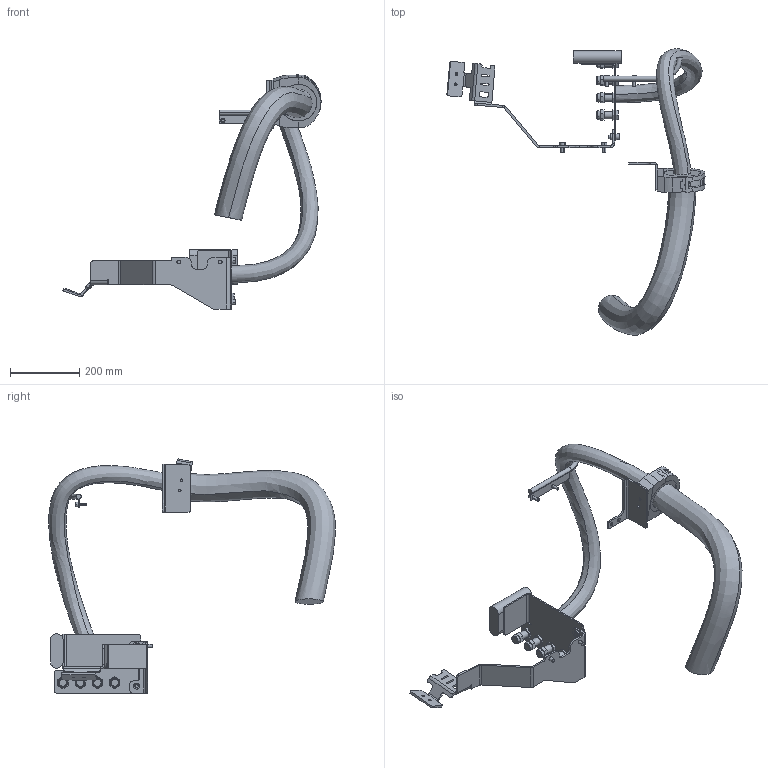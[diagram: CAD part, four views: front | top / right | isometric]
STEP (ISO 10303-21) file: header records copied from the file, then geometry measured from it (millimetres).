
FILE_DESCRIPTION (( 'STEP AP214' ), '1' );
FILE_NAME ('IRB6730-LID-SW_190kg-310_OC_00_LINK03a_CABLE.step', '2026-05-26T09:13:56', ( '' ), ( '' ), 'SwSTEP 2.0', 'SolidWorks 2024', '' );
FILE_SCHEMA (( 'AUTOMOTIVE_DESIGN' ));
Length unit declared in the file: millimetre
Products named in the file (1): IRB6730-LID-SW_190kg-310_OC_00_LINK03a_CABLE
Bounding box: 747.03 x 829.62 x 677.9 mm (x, y, z)
Volume: 7550578.2 mm3; surface area: 723244.1 mm2
Topology: 1 solids, 5 shells, 580 faces, 1407 edges, 894 vertices
Faces by surface type: plane 343, cylinder 194, cone 24, torus 11, bspline 8
Entity records: 27241 total; most frequent: CARTESIAN_POINT 6988, DIRECTION 2960, ORIENTED_EDGE 2814, EDGE_CURVE 1407, AXIS2_PLACEMENT_3D 1045, VERTEX_POINT 894, VECTOR 870, LINE 870
